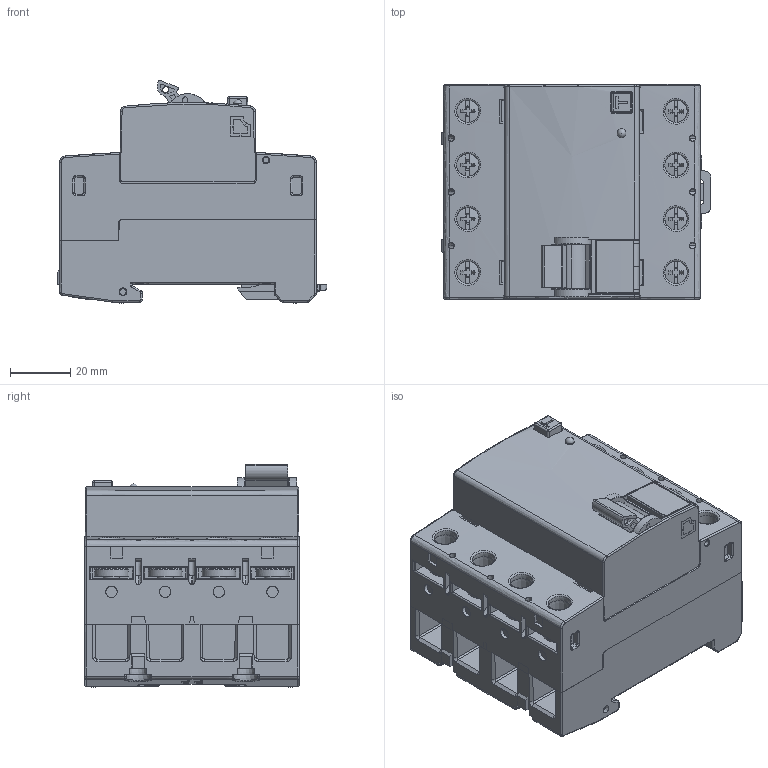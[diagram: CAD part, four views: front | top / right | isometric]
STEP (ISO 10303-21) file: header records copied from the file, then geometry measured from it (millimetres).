
FILE_DESCRIPTION(/* description */ (''),/* implementation_level */ '2;1');
FILE_NAME(/* name */ 'EPA_RCCB.stp',/* time_stamp */ '2020-06-23T09:02:18+02:00',/* author */ (''),/* organization */ (''),/* preprocessor_version */ 'ST-DEVELOPER v16',/* originating_system */ 'SIEMENS PLM Software NX 11.0',/* authorisation */ '');
FILE_SCHEMA (('AUTOMOTIVE_DESIGN { 1 0 10303 214 3 1 1 1 }'));
Products named in the file (1): K10392_001_1-DFS_4_B_
Bounding box: 89.32 x 71.2 x 73.93 mm (x, y, z)
Volume: 301607.5 mm3; surface area: 51268.2 mm2
Topology: 1 solids, 3 shells, 1568 faces, 4455 edges, 2911 vertices
Faces by surface type: bspline 836, plane 468, cylinder 135, cone 57, sphere 37, extrusion 35
Full cylindrical faces by diameter (mm): 1.4 x2, 2 x3, 2.93 x1, 5.4 x8, 7.5 x2
Entity records: 106613 total; most frequent: CARTESIAN_POINT 74204, ORIENTED_EDGE 8610, EDGE_CURVE 4305, DIRECTION 3433, VERTEX_POINT 2866, B_SPLINE_CURVE_WITH_KNOTS 2798, EDGE_LOOP 1787, ADVANCED_FACE 1567
